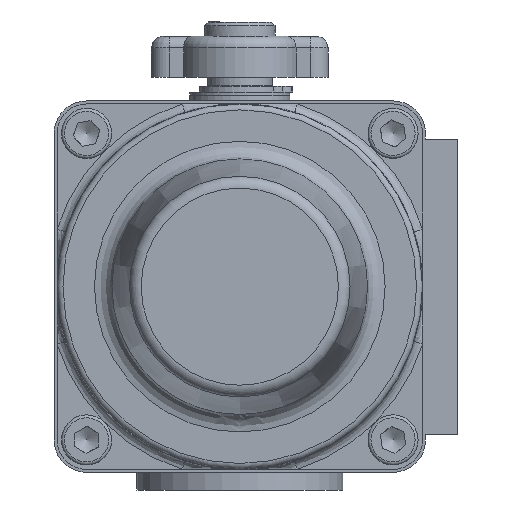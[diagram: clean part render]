
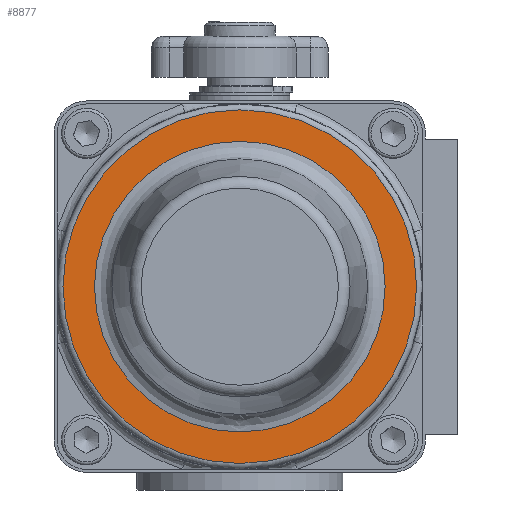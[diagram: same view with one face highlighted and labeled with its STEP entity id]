
A CAD part, left-side view. The second image highlights one B-rep face of the part: STEP entity #8877.
In plain terms, the highlighted planar face has unit normal (-1, 0, 0).
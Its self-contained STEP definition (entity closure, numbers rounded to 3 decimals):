
#8835=CARTESIAN_POINT('',(-41.8,0.,1.5));
#8836=VERTEX_POINT('',#8835);
#8837=CARTESIAN_POINT('',(-41.8,0.,31.5));
#8838=DIRECTION('',(1.0,0.0,0.0));
#8839=DIRECTION('',(0.0,0.0,1.0));
#8840=AXIS2_PLACEMENT_3D('',#8837,#8838,#8839);
#8841=CIRCLE('',#8840,30.0);
#8842=EDGE_CURVE('',#8836,#8836,#8841,.T.);
#8858=CARTESIAN_POINT('',(-41.8,0.,31.5));
#8859=DIRECTION('',(1.0,0.0,0.0));
#8860=DIRECTION('',(0.0,0.0,1.0));
#8861=AXIS2_PLACEMENT_3D('',#8858,#8859,#8860);
#8862=PLANE('',#8861);
#8863=ORIENTED_EDGE('',*,*,#8842,.F.);
#8864=EDGE_LOOP('',(#8863));
#8865=FACE_OUTER_BOUND('',#8864,.T.);
#8866=CARTESIAN_POINT('',(-41.8,0.,6.84));
#8867=VERTEX_POINT('',#8866);
#8868=CARTESIAN_POINT('',(-41.8,0.,31.5));
#8869=DIRECTION('',(-1.0,0.0,0.0));
#8870=DIRECTION('',(0.0,0.0,1.0));
#8871=AXIS2_PLACEMENT_3D('',#8868,#8869,#8870);
#8872=CIRCLE('',#8871,24.66);
#8873=EDGE_CURVE('',#8867,#8867,#8872,.T.);
#8874=ORIENTED_EDGE('',*,*,#8873,.F.);
#8875=EDGE_LOOP('',(#8874));
#8876=FACE_BOUND('',#8875,.T.);
#8877=ADVANCED_FACE('',(#8865,#8876),#8862,.F.);
